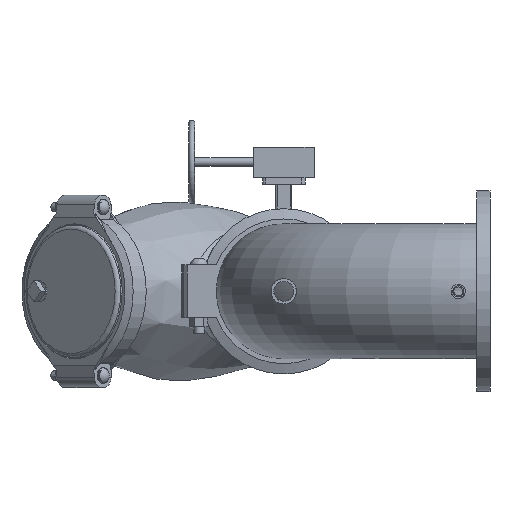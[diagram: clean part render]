
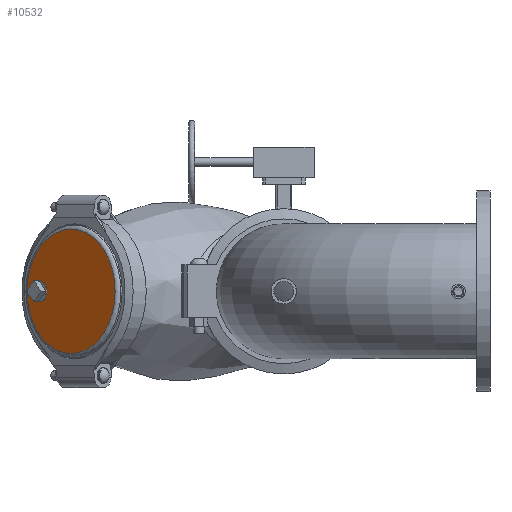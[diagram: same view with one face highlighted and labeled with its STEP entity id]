
A CAD part, front view. The second image highlights one B-rep face of the part: STEP entity #10532.
In plain terms, the highlighted planar face has unit normal (-0.707, -0.707, 0) as drawn and (1, 0, 0) by its records, which use the part's own axes.
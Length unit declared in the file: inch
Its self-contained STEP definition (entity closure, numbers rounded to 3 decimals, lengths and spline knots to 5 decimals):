
#2023=FACE_BOUND('',#3017,.T.);
#2384=FACE_OUTER_BOUND('',#3016,.T.);
#3016=EDGE_LOOP('',(#7782,#7783));
#3017=EDGE_LOOP('',(#7784));
#3651=CIRCLE('',#11650,1.);
#3659=CIRCLE('',#11661,5.8855);
#3660=CIRCLE('',#11662,5.8855);
#4454=VERTEX_POINT('',#21399);
#4462=VERTEX_POINT('',#21420);
#4463=VERTEX_POINT('',#21421);
#5656=EDGE_CURVE('',#4454,#4454,#3651,.T.);
#5665=EDGE_CURVE('',#4462,#4463,#3659,.T.);
#5666=EDGE_CURVE('',#4463,#4462,#3660,.T.);
#7782=ORIENTED_EDGE('',*,*,#5665,.T.);
#7783=ORIENTED_EDGE('',*,*,#5666,.T.);
#7784=ORIENTED_EDGE('',*,*,#5656,.T.);
#9493=PLANE('',#11664);
#10532=ADVANCED_FACE('',(#2384,#2023),#9493,.T.);
#11650=AXIS2_PLACEMENT_3D('',#21401,#13716,#13717);
#11661=AXIS2_PLACEMENT_3D('',#21422,#13739,#13740);
#11662=AXIS2_PLACEMENT_3D('',#21423,#13741,#13742);
#11664=AXIS2_PLACEMENT_3D('',#21425,#13745,#13746);
#13716=DIRECTION('center_axis',(-1.,0.,0.));
#13717=DIRECTION('ref_axis',(0.,0.,1.));
#13739=DIRECTION('center_axis',(1.,0.,0.));
#13740=DIRECTION('ref_axis',(0.,0.,-1.));
#13741=DIRECTION('center_axis',(1.,0.,0.));
#13742=DIRECTION('ref_axis',(0.,0.,-1.));
#13745=DIRECTION('center_axis',(1.,0.,0.));
#13746=DIRECTION('ref_axis',(0.,0.,-1.));
#21399=CARTESIAN_POINT('',(1.68,4.25,-1.));
#21401=CARTESIAN_POINT('Origin',(1.68,4.25,0.));
#21420=CARTESIAN_POINT('',(1.68,5.8855,0.));
#21421=CARTESIAN_POINT('',(1.68,0.,5.8855));
#21422=CARTESIAN_POINT('Origin',(1.68,0.,0.));
#21423=CARTESIAN_POINT('Origin',(1.68,0.,0.));
#21425=CARTESIAN_POINT('Origin',(1.68,0.,0.));
